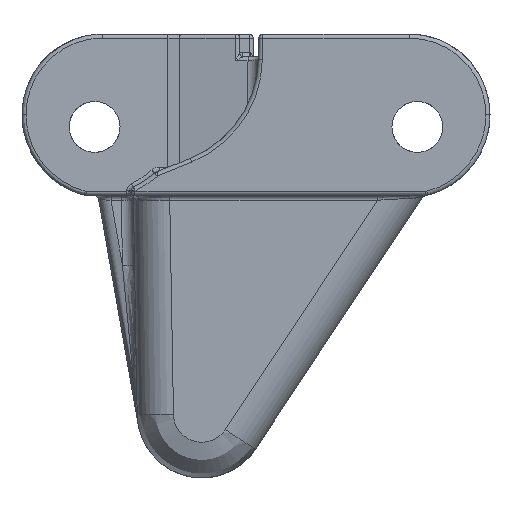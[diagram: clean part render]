
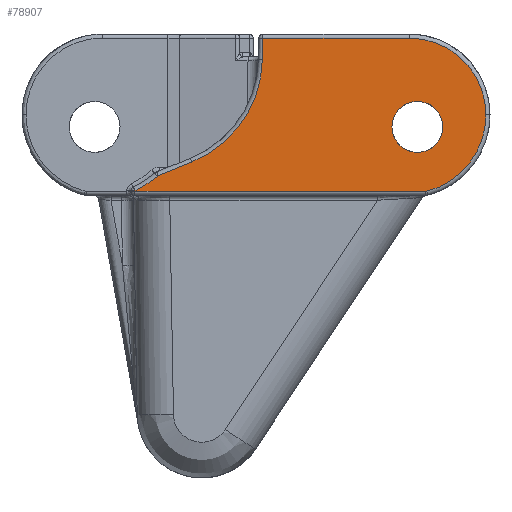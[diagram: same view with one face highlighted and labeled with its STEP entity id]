
A CAD part, left-side view. The second image highlights one B-rep face of the part: STEP entity #78907.
In plain terms, the highlighted planar face has unit normal (-1, 0, 0).
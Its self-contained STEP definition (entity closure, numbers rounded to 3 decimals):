
#2451=DIRECTION('',(0.,0.927,-0.375));
#2452=VECTOR('',#2451,4.483);
#2453=CARTESIAN_POINT('',(-100.6,7.959,-5.857));
#2454=LINE('',#2453,#2452);
#2455=CARTESIAN_POINT('',(-100.6,13.203,7.124));
#2456=DIRECTION('',(1.,0.,0.));
#2457=DIRECTION('',(0.,-1.,-0.017));
#2458=AXIS2_PLACEMENT_3D('',#2455,#2456,#2457);
#2460=DIRECTION('',(0.,0.017,-1.));
#2461=VECTOR('',#2460,2.621);
#2462=CARTESIAN_POINT('',(-100.6,-0.84,9.5));
#2463=LINE('',#2462,#2461);
#2464=DIRECTION('',(0.,1.,0.));
#2465=VECTOR('',#2464,18.16);
#2466=CARTESIAN_POINT('',(-100.6,-19.,9.5));
#2467=LINE('',#2466,#2465);
#2468=CARTESIAN_POINT('',(-100.6,-19.,0.));
#2469=DIRECTION('',(-1.,0.,0.));
#2470=DIRECTION('',(0.,-1.,0.));
#2471=AXIS2_PLACEMENT_3D('',#2468,#2469,#2470);
#2473=CARTESIAN_POINT('',(-100.6,-18.7,0.));
#2474=DIRECTION('',(-1.,0.,0.));
#2475=DIRECTION('',(0.,-0.252,-0.968));
#2476=AXIS2_PLACEMENT_3D('',#2473,#2474,#2475);
#2478=CARTESIAN_POINT('',(-100.6,-21.043,-9.));
#2479=DIRECTION('',(-1.,0.,0.));
#2480=DIRECTION('',(0.,0.,-1.));
#2481=AXIS2_PLACEMENT_3D('',#2478,#2479,#2480);
#2483=DIRECTION('',(0.,-1.,0.));
#2484=VECTOR('',#2483,36.043);
#2485=CARTESIAN_POINT('',(-100.6,15.,-9.5));
#2486=LINE('',#2485,#2484);
#2487=DIRECTION('',(0.,0.,-1.));
#2488=VECTOR('',#2487,0.088);
#2489=CARTESIAN_POINT('',(-100.6,15.,-9.412));
#2490=LINE('',#2489,#2488);
#2491=CARTESIAN_POINT('',(-100.6,21.5,3.549));
#2492=DIRECTION('',(1.,0.,0.));
#2493=DIRECTION('',(0.,-0.638,-0.77));
#2494=AXIS2_PLACEMENT_3D('',#2491,#2492,#2493);
#2496=CARTESIAN_POINT('',(-100.6,11.928,-8.));
#2497=DIRECTION('',(-1.,0.,0.));
#2498=DIRECTION('',(0.,0.375,0.927));
#2499=AXIS2_PLACEMENT_3D('',#2496,#2497,#2498);
#2501=CARTESIAN_POINT('',(-100.6,-20.,-1.5));
#2502=DIRECTION('',(1.,0.,0.));
#2503=DIRECTION('',(0.,-1.,0.));
#2504=AXIS2_PLACEMENT_3D('',#2501,#2502,#2503);
#2506=CARTESIAN_POINT('',(-100.6,-20.,-1.5));
#2507=DIRECTION('',(1.,0.,0.));
#2508=DIRECTION('',(0.,1.,0.));
#2509=AXIS2_PLACEMENT_3D('',#2506,#2507,#2508);
#72795=CARTESIAN_POINT('',(-100.6,-23.15,-1.5));
#72796=CARTESIAN_POINT('',(-100.6,-16.85,-1.5));
#72797=VERTEX_POINT('',#72795);
#72798=VERTEX_POINT('',#72796);
#76614=CARTESIAN_POINT('',(-100.6,-0.84,9.5));
#76616=VERTEX_POINT('',#76614);
#76641=CARTESIAN_POINT('',(-100.6,7.959,-5.857));
#76642=CARTESIAN_POINT('',(-100.6,12.116,-7.536));
#76643=VERTEX_POINT('',#76641);
#76644=VERTEX_POINT('',#76642);
#76649=CARTESIAN_POINT('',(-100.6,-0.795,6.879));
#76650=VERTEX_POINT('',#76649);
#76780=CARTESIAN_POINT('',(-100.6,12.247,-7.615));
#76781=VERTEX_POINT('',#76780);
#76784=CARTESIAN_POINT('',(-100.6,15.,-9.412));
#76785=VERTEX_POINT('',#76784);
#76790=CARTESIAN_POINT('',(-100.6,15.,-9.5));
#76791=VERTEX_POINT('',#76790);
#76796=CARTESIAN_POINT('',(-100.6,-21.043,-9.5));
#76797=VERTEX_POINT('',#76796);
#76800=CARTESIAN_POINT('',(-100.6,-21.169,-9.484));
#76801=CARTESIAN_POINT('',(-100.6,-28.5,0.));
#76802=VERTEX_POINT('',#76800);
#76803=VERTEX_POINT('',#76801);
#76810=CARTESIAN_POINT('',(-100.6,-19.,9.5));
#76811=VERTEX_POINT('',#76810);
#78874=CARTESIAN_POINT('',(-100.6,0.,10.));
#78875=DIRECTION('',(-1.,0.,0.));
#78876=DIRECTION('',(0.,-1.,0.));
#78877=AXIS2_PLACEMENT_3D('',#78874,#78875,#78876);
#78878=PLANE('',#78877);
#78880=ORIENTED_EDGE('',*,*,#78879,.F.);
#78882=ORIENTED_EDGE('',*,*,#78881,.F.);
#78884=ORIENTED_EDGE('',*,*,#78883,.F.);
#78886=ORIENTED_EDGE('',*,*,#78885,.F.);
#78888=ORIENTED_EDGE('',*,*,#78887,.F.);
#78890=ORIENTED_EDGE('',*,*,#78889,.F.);
#78891=ORIENTED_EDGE('',*,*,#78852,.F.);
#78892=ORIENTED_EDGE('',*,*,#78865,.F.);
#78894=ORIENTED_EDGE('',*,*,#78893,.F.);
#78896=ORIENTED_EDGE('',*,*,#78895,.F.);
#78898=ORIENTED_EDGE('',*,*,#78897,.F.);
#78899=EDGE_LOOP('',(#78880,#78882,#78884,#78886,#78888,#78890,#78891,#78892,
#78894,#78896,#78898));
#78900=FACE_OUTER_BOUND('',#78899,.F.);
#78902=ORIENTED_EDGE('',*,*,#78901,.F.);
#78904=ORIENTED_EDGE('',*,*,#78903,.F.);
#78905=EDGE_LOOP('',(#78902,#78904));
#78906=FACE_BOUND('',#78905,.F.);
#2459=CIRCLE('',#2458,14.);
#2472=CIRCLE('',#2471,9.5);
#2477=CIRCLE('',#2476,9.8);
#2482=CIRCLE('',#2481,0.5);
#2495=CIRCLE('',#2494,14.5);
#2500=CIRCLE('',#2499,0.5);
#2505=CIRCLE('',#2504,3.15);
#2510=CIRCLE('',#2509,3.15);
#78852=EDGE_CURVE('',#76797,#76802,#2482,.T.);
#78865=EDGE_CURVE('',#76791,#76797,#2486,.T.);
#78879=EDGE_CURVE('',#76643,#76644,#2454,.T.);
#78881=EDGE_CURVE('',#76650,#76643,#2459,.T.);
#78883=EDGE_CURVE('',#76616,#76650,#2463,.T.);
#78885=EDGE_CURVE('',#76811,#76616,#2467,.T.);
#78887=EDGE_CURVE('',#76803,#76811,#2472,.T.);
#78889=EDGE_CURVE('',#76802,#76803,#2477,.T.);
#78893=EDGE_CURVE('',#76785,#76791,#2490,.T.);
#78895=EDGE_CURVE('',#76781,#76785,#2495,.T.);
#78897=EDGE_CURVE('',#76644,#76781,#2500,.T.);
#78901=EDGE_CURVE('',#72797,#72798,#2505,.T.);
#78903=EDGE_CURVE('',#72798,#72797,#2510,.T.);
#78907=ADVANCED_FACE('',(#78900,#78906),#78878,.T.);
